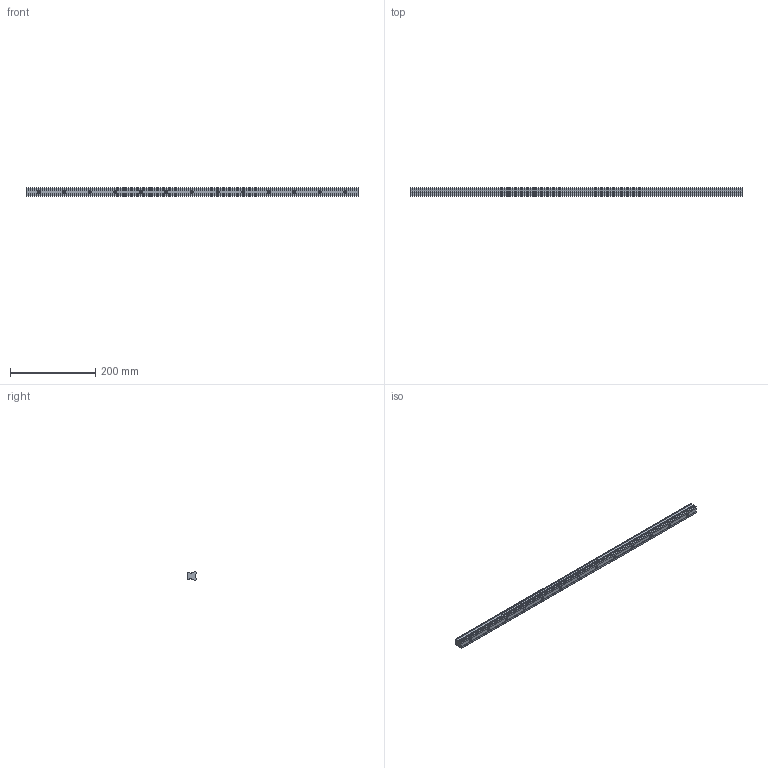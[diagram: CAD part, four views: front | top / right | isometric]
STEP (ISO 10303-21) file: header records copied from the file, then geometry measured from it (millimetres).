
FILE_DESCRIPTION (( 'STEP AP203' ), '1' );
FILE_NAME ('L1018.20R-0780.step', '2023-08-06T09:06:13', ( '' ), ( '' ), 'SwSTEP 2.0', 'SolidWorks 2019', '' );
FILE_SCHEMA (( 'CONFIG_CONTROL_DESIGN' ));
Length unit declared in the file: millimetre
Products named in the file (1): L1018.20R-0780
Bounding box: 780 x 19.3 x 20 mm (x, y, z)
Volume: 247360.1 mm3; surface area: 66471.8 mm2
Topology: 1 solids, 1 shells, 146 faces, 341 edges, 197 vertices
Faces by surface type: cylinder 55, cone 52, plane 39
Entity records: 4040 total; most frequent: DIRECTION 745, CARTESIAN_POINT 659, ORIENTED_EDGE 630, EDGE_CURVE 315, AXIS2_PLACEMENT_3D 283, VERTEX_POINT 197, LINE 179, VECTOR 179
